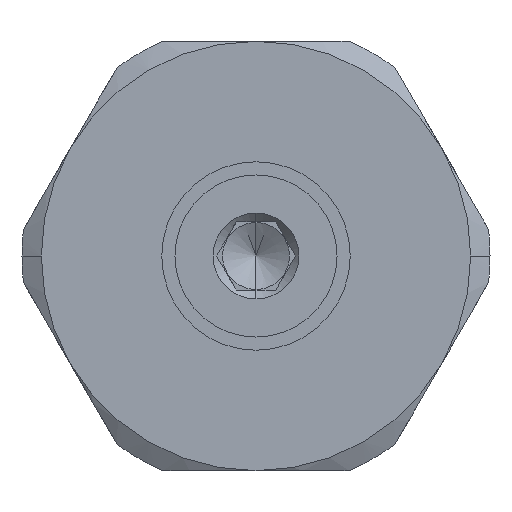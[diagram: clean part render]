
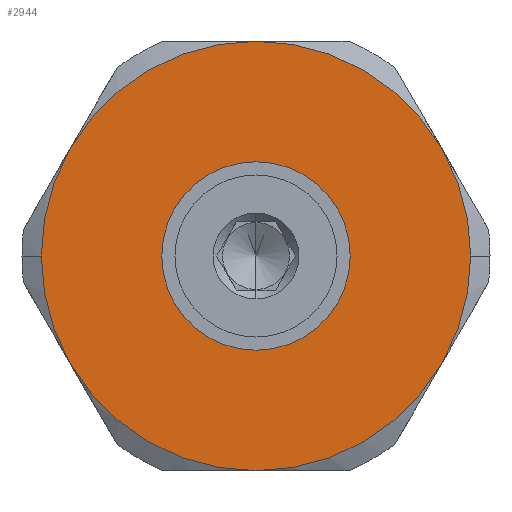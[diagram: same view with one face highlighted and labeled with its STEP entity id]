
A CAD part, left-side view. The second image highlights one B-rep face of the part: STEP entity #2944.
In plain terms, the highlighted planar face has unit normal (-1, 0, 0).
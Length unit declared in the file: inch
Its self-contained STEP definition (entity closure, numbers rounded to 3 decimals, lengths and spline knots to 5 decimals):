
#2540=CARTESIAN_POINT('',(-0.05,0.5,1.95));
#2541=VERTEX_POINT('',#2540);
#2557=CARTESIAN_POINT('',(-0.05,0.43301,1.7));
#2558=VERTEX_POINT('',#2557);
#2572=CARTESIAN_POINT('',(-0.05,0.,1.95));
#2573=DIRECTION('',(-1.0,0.0,0.0));
#2574=DIRECTION('',(0.0,1.0,0.0));
#2575=AXIS2_PLACEMENT_3D('',#2572,#2573,#2574);
#2576=CIRCLE('',#2575,0.5);
#2577=EDGE_CURVE('',#2541,#2558,#2576,.T.);
#2587=CARTESIAN_POINT('',(-0.05,-0.5,1.95));
#2588=VERTEX_POINT('',#2587);
#2595=CARTESIAN_POINT('',(-0.05,-0.43301,1.7));
#2596=VERTEX_POINT('',#2595);
#2597=CARTESIAN_POINT('',(-0.05,0.,1.95));
#2598=DIRECTION('',(-1.0,0.0,0.0));
#2599=DIRECTION('',(0.0,1.0,0.0));
#2600=AXIS2_PLACEMENT_3D('',#2597,#2598,#2599);
#2601=CIRCLE('',#2600,0.5);
#2602=EDGE_CURVE('',#2596,#2588,#2601,.T.);
#2626=CARTESIAN_POINT('',(-0.05,0.2195,1.95));
#2627=VERTEX_POINT('',#2626);
#2636=CARTESIAN_POINT('',(-0.05,-0.2195,1.95));
#2637=VERTEX_POINT('',#2636);
#2638=CARTESIAN_POINT('',(-0.05,0.,1.95));
#2639=DIRECTION('',(1.0,0.0,0.0));
#2640=DIRECTION('',(0.0,1.0,0.0));
#2641=AXIS2_PLACEMENT_3D('',#2638,#2639,#2640);
#2642=CIRCLE('',#2641,0.2195);
#2643=EDGE_CURVE('',#2637,#2627,#2642,.T.);
#2871=CARTESIAN_POINT('',(-0.05,0.,1.95));
#2872=DIRECTION('',(1.0,0.0,0.0));
#2873=DIRECTION('',(0.0,1.0,0.0));
#2874=AXIS2_PLACEMENT_3D('',#2871,#2872,#2873);
#2875=CIRCLE('',#2874,0.2195);
#2876=EDGE_CURVE('',#2627,#2637,#2875,.T.);
#2881=CARTESIAN_POINT('',(-0.05,0.,1.95));
#2882=DIRECTION('',(1.0,0.0,0.0));
#2883=DIRECTION('',(0.0,0.0,-1.0));
#2884=AXIS2_PLACEMENT_3D('',#2881,#2882,#2883);
#2885=PLANE('',#2884);
#2886=CARTESIAN_POINT('',(-0.05,-0.43301,2.2));
#2887=VERTEX_POINT('',#2886);
#2888=CARTESIAN_POINT('',(-0.05,0.,2.45));
#2889=VERTEX_POINT('',#2888);
#2890=CARTESIAN_POINT('',(-0.05,0.,1.95));
#2891=DIRECTION('',(-1.0,0.0,0.0));
#2892=DIRECTION('',(0.0,1.0,0.0));
#2893=AXIS2_PLACEMENT_3D('',#2890,#2891,#2892);
#2894=CIRCLE('',#2893,0.5);
#2895=EDGE_CURVE('',#2887,#2889,#2894,.T.);
#2896=ORIENTED_EDGE('',*,*,#2895,.T.);
#2897=CARTESIAN_POINT('',(-0.05,0.43301,2.2));
#2898=VERTEX_POINT('',#2897);
#2899=CARTESIAN_POINT('',(-0.05,0.,1.95));
#2900=DIRECTION('',(-1.0,0.0,0.0));
#2901=DIRECTION('',(0.0,1.0,0.0));
#2902=AXIS2_PLACEMENT_3D('',#2899,#2900,#2901);
#2903=CIRCLE('',#2902,0.5);
#2904=EDGE_CURVE('',#2889,#2898,#2903,.T.);
#2905=ORIENTED_EDGE('',*,*,#2904,.T.);
#2906=CARTESIAN_POINT('',(-0.05,0.,1.95));
#2907=DIRECTION('',(-1.0,0.0,0.0));
#2908=DIRECTION('',(0.0,1.0,0.0));
#2909=AXIS2_PLACEMENT_3D('',#2906,#2907,#2908);
#2910=CIRCLE('',#2909,0.5);
#2911=EDGE_CURVE('',#2898,#2541,#2910,.T.);
#2912=ORIENTED_EDGE('',*,*,#2911,.T.);
#2913=ORIENTED_EDGE('',*,*,#2577,.T.);
#2914=CARTESIAN_POINT('',(-0.05,0.,1.45));
#2915=VERTEX_POINT('',#2914);
#2916=CARTESIAN_POINT('',(-0.05,0.,1.95));
#2917=DIRECTION('',(-1.0,0.0,0.0));
#2918=DIRECTION('',(0.0,1.0,0.0));
#2919=AXIS2_PLACEMENT_3D('',#2916,#2917,#2918);
#2920=CIRCLE('',#2919,0.5);
#2921=EDGE_CURVE('',#2558,#2915,#2920,.T.);
#2922=ORIENTED_EDGE('',*,*,#2921,.T.);
#2923=CARTESIAN_POINT('',(-0.05,0.,1.95));
#2924=DIRECTION('',(-1.0,0.0,0.0));
#2925=DIRECTION('',(0.0,1.0,0.0));
#2926=AXIS2_PLACEMENT_3D('',#2923,#2924,#2925);
#2927=CIRCLE('',#2926,0.5);
#2928=EDGE_CURVE('',#2915,#2596,#2927,.T.);
#2929=ORIENTED_EDGE('',*,*,#2928,.T.);
#2930=ORIENTED_EDGE('',*,*,#2602,.T.);
#2931=CARTESIAN_POINT('',(-0.05,0.,1.95));
#2932=DIRECTION('',(-1.0,0.0,0.0));
#2933=DIRECTION('',(0.0,1.0,0.0));
#2934=AXIS2_PLACEMENT_3D('',#2931,#2932,#2933);
#2935=CIRCLE('',#2934,0.5);
#2936=EDGE_CURVE('',#2588,#2887,#2935,.T.);
#2937=ORIENTED_EDGE('',*,*,#2936,.T.);
#2938=EDGE_LOOP('',(#2896,#2905,#2912,#2913,#2922,#2929,#2930,#2937));
#2939=FACE_OUTER_BOUND('',#2938,.T.);
#2940=ORIENTED_EDGE('',*,*,#2876,.T.);
#2941=ORIENTED_EDGE('',*,*,#2643,.T.);
#2942=EDGE_LOOP('',(#2940,#2941));
#2943=FACE_BOUND('',#2942,.T.);
#2944=ADVANCED_FACE('',(#2939,#2943),#2885,.F.);
